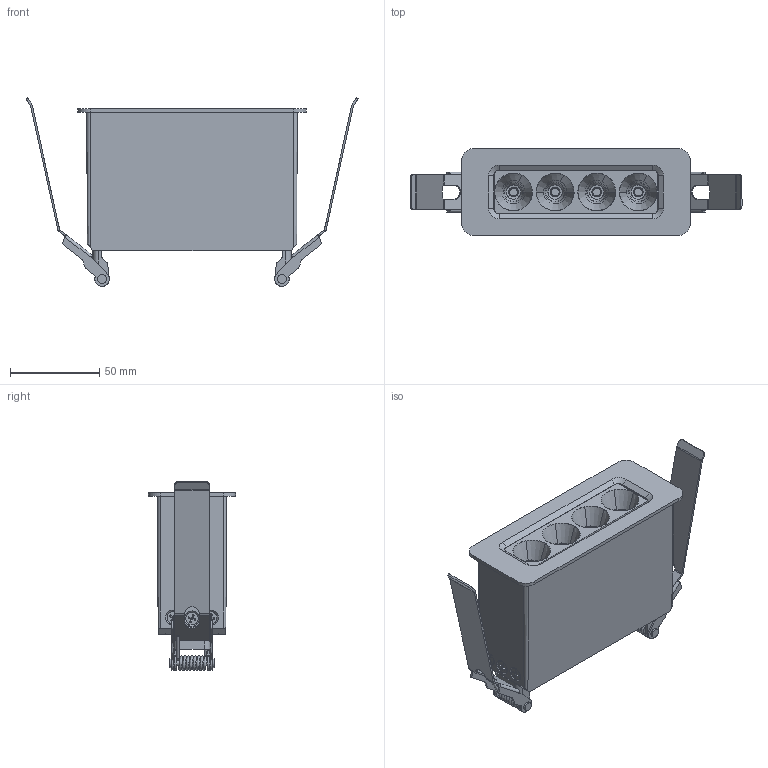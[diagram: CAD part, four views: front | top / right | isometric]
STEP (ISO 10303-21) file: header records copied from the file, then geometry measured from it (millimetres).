
FILE_DESCRIPTION(/* description */ (''),/* implementation_level */ '2;1');
FILE_NAME(/* name */ 'Darcy 4 Cells Assembly - Rec - IP20.stp',/* time_stamp */ '2026-02-19T10:50:11+11:00',/* author */ ('Mlight'),/* organization */ (''),/* preprocessor_version */ 'ST-DEVELOPER v20',/* originating_system */ 'Autodesk Inventor 2024',/* authorisation */ '');
FILE_SCHEMA (('AUTOMOTIVE_DESIGN { 1 0 10303 214 3 1 1 }'));
Products named in the file (21): Darcy 4 Cells Assembly; DARCY PCB With Solder Clip 4 Cell; Ledil Darcy PCB; C18696; LED Board 2000 A0; DARCY-4x1; Copy (1) of C19683_DARCY-SHD_004_MechanicalModel_001; Copy (1) of Mechanical-LENS; Copy (2) of Mechanical-LENS; Copy (3) of Mechanical-LENS; Copy (4) of Mechanical-LENS; Evelo X Heat Sink Toshine Revision; AS 1427 - M4 x 10; Evelo Modular SM Outer Body; Custom Spring Assembly; Custom Spring Holder; Custom Spring Leg; Pin; Spring; Evelo X IP20 Bracket; Recessed Cover Plate
Assembly tree (31 placements, depth 3):
  Darcy 4 Cells Assembly
    DARCY PCB With Solder Clip 4 Cell
      Ledil Darcy PCB
      C18696  x4
      LED Board 2000 A0  x2
    DARCY-4x1
      Copy (1) of C19683_DARCY-SHD_004_MechanicalModel_001
      Copy (1) of Mechanical-LENS
      Copy (2) of Mechanical-LENS
      Copy (3) of Mechanical-LENS
      Copy (4) of Mechanical-LENS
    Evelo X Heat Sink Toshine Revision
    AS 1427 - M4 x 10  x6
    Evelo Modular SM Outer Body
    Custom Spring Assembly  x2
      Custom Spring Holder
      Custom Spring Leg
      Pin
      Spring
    Evelo X IP20 Bracket  x2
    Recessed Cover Plate
Bounding box: 186.19 x 48.89 x 105.83 mm (x, y, z)
Volume: 121352.9 mm3; surface area: 116277.4 mm2
Topology: 31 solids, 31 shells, 3327 faces, 8494 edges, 5096 vertices
Faces by surface type: bspline 1199, plane 859, cylinder 565, cone 363, torus 282, sphere 59
Full cylindrical faces by diameter (mm): 1.1 x2, 1.5 x8, 1.6 x2, 2.1 x1, 2.8 x2, 3 x8, 3.2 x2, 3.242 x8, 3.571 x6, 4 x6, 4.5 x6, 4.8 x4, 5 x4, 7 x6, 8 x1
Entity records: 156288 total; most frequent: CARTESIAN_POINT 92899, ORIENTED_EDGE 14202, DIRECTION 11656, EDGE_CURVE 7101, AXIS2_PLACEMENT_3D 4901, VERTEX_POINT 4290, EDGE_LOOP 2907, FACE_OUTER_BOUND 2828
